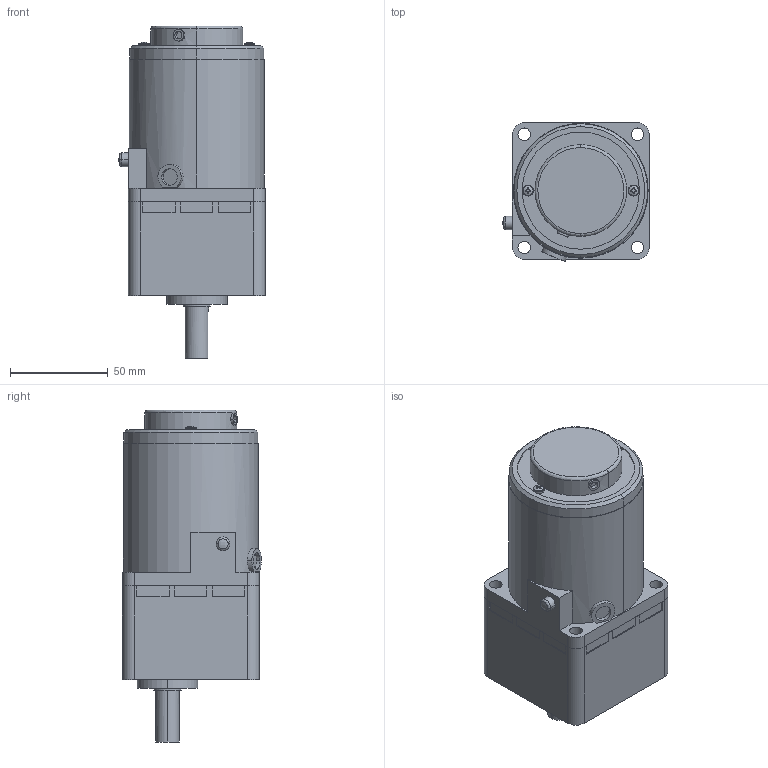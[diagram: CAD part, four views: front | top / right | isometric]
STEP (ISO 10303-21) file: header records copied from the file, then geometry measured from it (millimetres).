
FILE_DESCRIPTION (( 'STEP AP203' ), '1' );
FILE_NAME ('A1215C.STEP', '2015-05-21T05:15:37', ( 'om' ), ( 'Hewlett-Packard Company' ), 'SwSTEP 2.0', 'SolidWorks 2014', '' );
FILE_SCHEMA (( 'CONFIG_CONTROL_DESIGN' ));
Length unit declared in the file: millimetre
Products named in the file (1): A1215C
Bounding box: 74.92 x 71.19 x 170 mm (x, y, z)
Volume: 552315.9 mm3; surface area: 60042.9 mm2
Topology: 2 solids, 5 shells, 237 faces, 615 edges, 408 vertices
Faces by surface type: plane 115, cylinder 109, bspline 11, cone 2
Entity records: 7768 total; most frequent: CARTESIAN_POINT 1752, DIRECTION 1247, ORIENTED_EDGE 1230, EDGE_CURVE 615, AXIS2_PLACEMENT_3D 450, VERTEX_POINT 408, VECTOR 347, LINE 347
